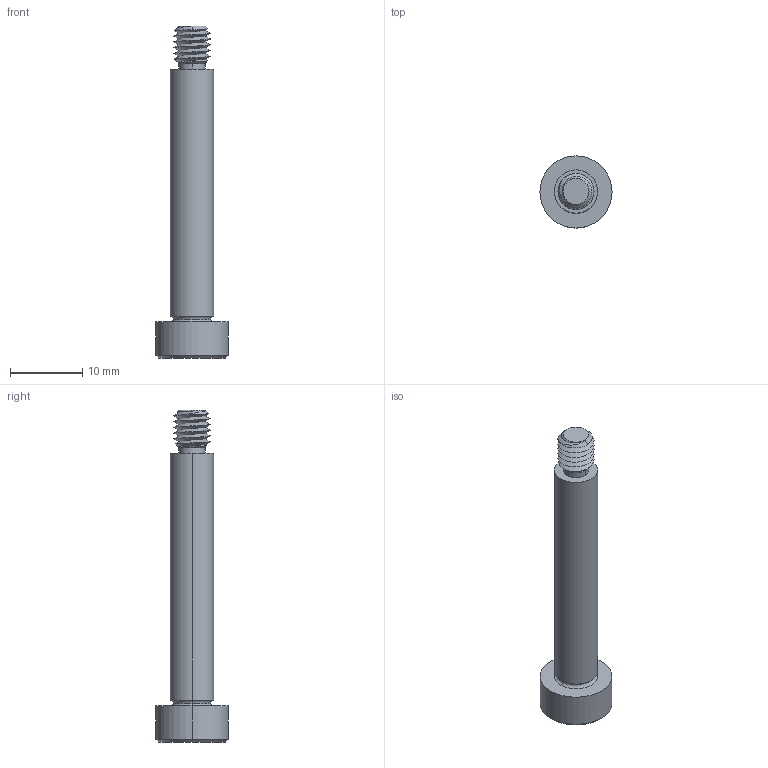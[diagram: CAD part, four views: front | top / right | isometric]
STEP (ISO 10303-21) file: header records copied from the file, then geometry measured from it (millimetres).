
FILE_DESCRIPTION (( 'STEP AP203' ), '1' );
FILE_NAME ('P0130.060-035-B2.step', '2021-11-09T21:27:30', ( '' ), ( '' ), 'SwSTEP 2.0', 'SolidWorks 2019', '' );
FILE_SCHEMA (( 'CONFIG_CONTROL_DESIGN' ));
Length unit declared in the file: millimetre
Products named in the file (1): P0130.060-035-B2
Bounding box: 10 x 10 x 46 mm (x, y, z)
Volume: 1433.9 mm3; surface area: 1147.3 mm2
Topology: 1 solids, 1 shells, 53 faces, 121 edges, 71 vertices
Faces by surface type: cylinder 17, plane 16, cone 14, torus 4, bspline 2
Entity records: 2367 total; most frequent: CARTESIAN_POINT 1186, ORIENTED_EDGE 238, DIRECTION 226, EDGE_CURVE 119, AXIS2_PLACEMENT_3D 92, VERTEX_POINT 71, EDGE_LOOP 56, FACE_OUTER_BOUND 53
